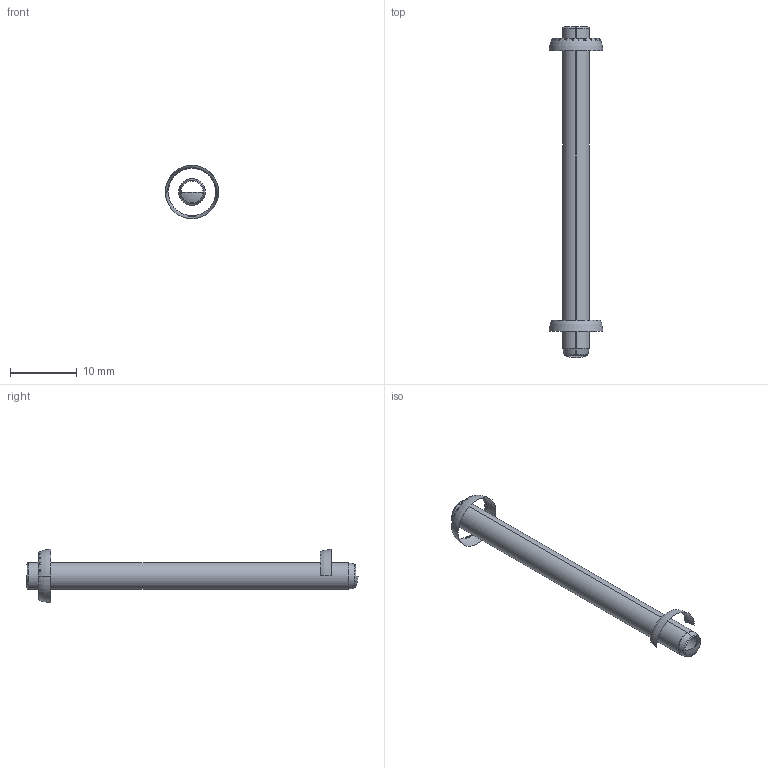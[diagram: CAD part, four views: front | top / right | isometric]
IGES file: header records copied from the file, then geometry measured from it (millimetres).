
Start section: SolidWorks IGES file using analytic representation for surfaces
Global section: file name: D:\Cleonir_arquivos\MT_15_07\Pinos Guia DIN 6325 ISO 8734 sem rosca\PG604050.igs; native system: SolidWorks 2013; preprocessor: SolidWorks 2013; author: Cleonir; date: 130718.161710; units: millimetre
Bounding box: 8 x 49.71 x 7.98 mm (x, y, z)
Surface area: 693.9 mm2 (no closed solid volume)
Topology: 0 solids, 0 shells, 294 faces, 2098 edges, 2097 vertices
Faces by surface type: bspline 266, revolution 28
